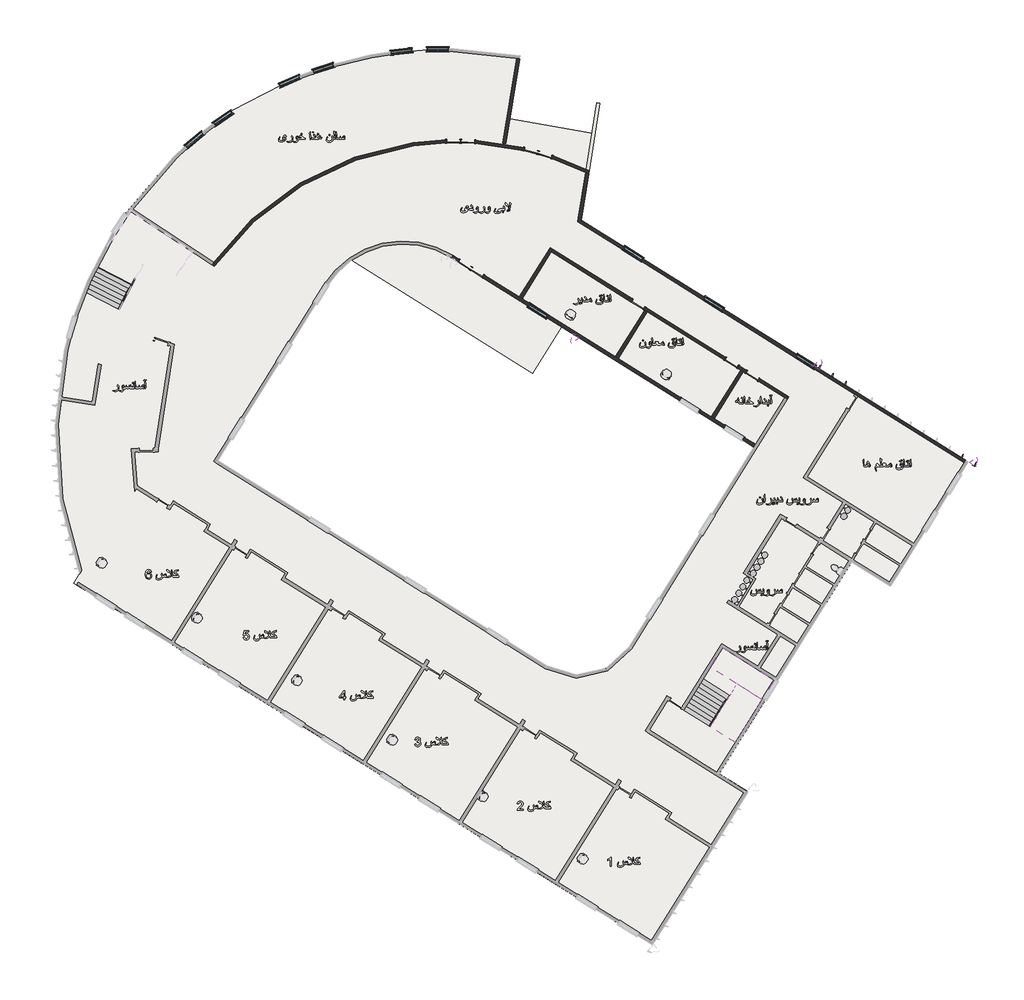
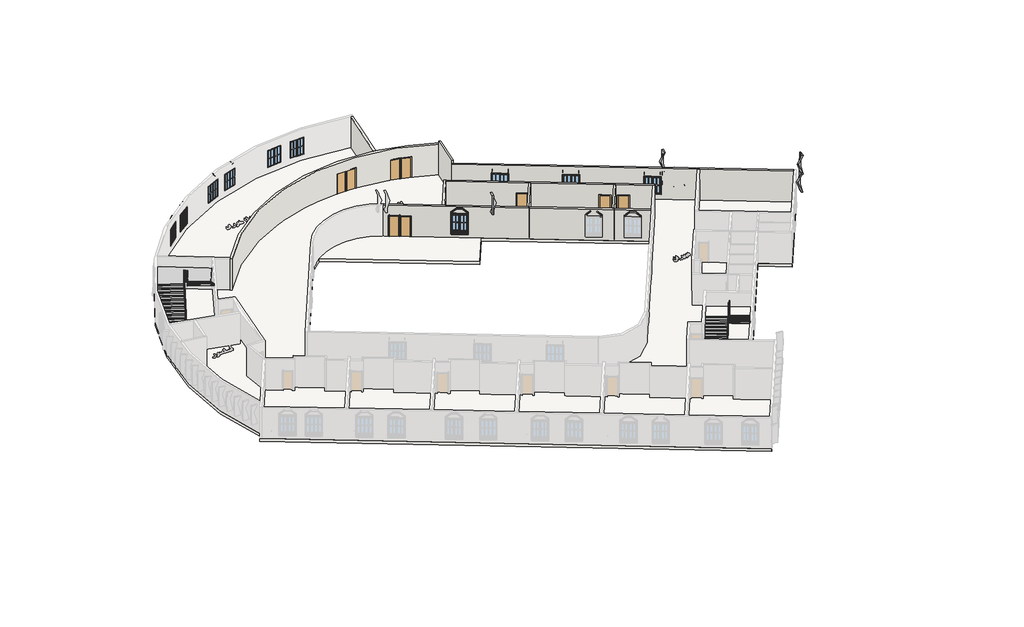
# One storey, part 4 of 12: 10 walls, 10 windows, 9 doors, 8 plates, 3 stair flights, 2 railings, 2 slabs.
"""IFC4 building model written with IfcOpenShell, lengths in millimetres."""

from ifc_helpers import new_model, si_unit, frame, origin, origin_with_axes, place, context, project, spatial, polyline, circle_curve, outline, extrude, faceted_brep, transform, mapped, element, save
from ifc_brep_helpers import plane_surface, cylinder_surface, revolved_surface, advanced_brep
from components import m_single_flush_0915_x_2134mm_6a9e8738, m_single_flush_0915_x_2134mm_727434cd, plate_91021fb5, railing_900mm_pipe_27f02cc4, railing_900mm_pipe_58324353, railing_900mm_pipe_8cd6b57c, railing_900mm_pipe_73249b27, non_monolithic_landing_a9921148, stair_flight_50mm_tread_13mm_riser_e71ca955, stair_flight_50mm_tread_13mm_riser_c05f2f23, stair_flight_50mm_tread_13mm_riser_d2d38518, m_window_casement_double_1400_x_1800mm_877d247a, m_window_casement_double_1400_x_1800mm_eb8f2d9a

model = new_model("IFC4")

# Units and contexts
model_context = context("Model", 3, world=origin())
ifc_project = project(units=[si_unit("LENGTHUNIT", "METRE", prefix="MILLI")], contexts=[model_context])

# Site, building, storey
site = spatial("IfcSite", under=ifc_project)
building = spatial("IfcBuilding", under=site)
storey = spatial("IfcBuildingStorey", under=building, Name="\u200fهمکف", Elevation=0.0)

# Doors
placement = place(None, origin())
m_single_flush_0915_x_2134mm_shape = m_single_flush_0915_x_2134mm_6a9e8738(model_context)
element("IfcDoor", 1, ObjectType="M_Single-Flush : 0915 x 2134mm", at=placement, inside=storey, context=model_context, shape_type="MappedRepresentation", body=[
    mapped(m_single_flush_0915_x_2134mm_shape, transform((29874.1034763, -23130.445272, 0.0), x_axis=(-0.8480480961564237, 0.5299192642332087, 0.0), y_axis=(-0.5299192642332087, -0.8480480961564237, 0.0), z_axis=(0.0, 0.0, 1.0))),
])
element("IfcDoor", 2, ObjectType="M_Single-Flush : 0915 x 2134mm", at=placement, inside=storey, context=model_context, shape_type="MappedRepresentation", body=[
    mapped(m_single_flush_0915_x_2134mm_shape, transform((48678.0915439, -30399.6031763, 0.0), x_axis=(-0.8480480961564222, 0.5299192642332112, 0.0), y_axis=(-0.5299192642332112, -0.8480480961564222, 0.0), z_axis=(0.0, 0.0, 1.0))),
])
element("IfcDoor", 3, ObjectType="M_Single-Flush : 0915 x 2134mm", at=placement, inside=storey, context=model_context, shape_type="MappedRepresentation", body=[
    mapped(m_single_flush_0915_x_2134mm_shape, transform((29130.4178059, -15060.6925463, 0.0), x_axis=(-0.9999690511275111, -0.007867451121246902, 0.0), y_axis=(0.007867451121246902, -0.9999690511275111, 0.0), z_axis=(0.0, 0.0, 1.0))),
])
element("IfcDoor", 4, ObjectType="M_Single-Flush : 0915 x 2134mm", at=placement, inside=storey, context=model_context, shape_type="MappedRepresentation", body=[
    mapped(m_single_flush_0915_x_2134mm_shape, transform((34206.7518759, -15688.9611698, 0.0), x_axis=(-0.9678789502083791, 0.25141666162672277, 0.0), y_axis=(-0.25141666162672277, -0.9678789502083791, 0.0), z_axis=(0.0, 0.0, 1.0))),
])
m_single_flush_0915_x_2134mm_2_shape = m_single_flush_0915_x_2134mm_727434cd(model_context)
element("IfcDoor", 5, ObjectType="M_Single-Flush : 0915 x 2134mm", at=placement, inside=storey, context=model_context, shape_type="MappedRepresentation", body=[
    mapped(m_single_flush_0915_x_2134mm_2_shape, transform((30650.0674843, -23615.3213988, 0.0), x_axis=(0.8480480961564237, -0.5299192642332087, 0.0), y_axis=(0.5299192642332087, 0.8480480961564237, 0.0), z_axis=(0.0, 0.0, 1.0))),
])
element("IfcDoor", 6, ObjectType="M_Single-Flush : 0915 x 2134mm", at=placement, inside=storey, context=model_context, shape_type="MappedRepresentation", body=[
    mapped(m_single_flush_0915_x_2134mm_2_shape, transform((41202.5475762, -25728.3648621, 0.0), x_axis=(0.8480480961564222, -0.5299192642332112, 0.0), y_axis=(0.5299192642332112, 0.8480480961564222, 0.0), z_axis=(0.0, 0.0, 1.0))),
])
element("IfcDoor", 7, ObjectType="M_Single-Flush : 0915 x 2134mm", at=placement, inside=storey, context=model_context, shape_type="MappedRepresentation", body=[
    mapped(m_single_flush_0915_x_2134mm_2_shape, transform((47308.4938686, -29543.7835646, 0.0), x_axis=(0.8480480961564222, -0.5299192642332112, 0.0), y_axis=(0.5299192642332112, 0.8480480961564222, 0.0), z_axis=(0.0, 0.0, 1.0))),
])
element("IfcDoor", 8, ObjectType="M_Single-Flush : 0915 x 2134mm", at=placement, inside=storey, context=model_context, shape_type="MappedRepresentation", body=[
    mapped(m_single_flush_0915_x_2134mm_2_shape, transform((30049.19591, -15075.0282196, 0.0), x_axis=(0.9992368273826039, -0.039061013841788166, 0.0), y_axis=(0.039061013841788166, 0.9992368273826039, 0.0), z_axis=(0.0, 0.0, 1.0))),
])
element("IfcDoor", 9, ObjectType="M_Single-Flush : 0915 x 2134mm", at=placement, inside=storey, context=model_context, shape_type="MappedRepresentation", body=[
    mapped(m_single_flush_0915_x_2134mm_2_shape, transform((35098.0416826, -15943.1488689, 0.0), x_axis=(0.954895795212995, -0.29694110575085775, 0.0), y_axis=(0.29694110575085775, 0.954895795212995, 0.0), z_axis=(0.0, 0.0, 1.0))),
])

# Plates
plate_shape = plate_91021fb5(model_context)
element("IfcPlate", 10, ObjectType="مدل پارامتریک کصینوس دار : مدل پارامتریک کصینوس دار", at=placement, inside=storey, context=model_context, shape_type="MappedRepresentation", body=[
    mapped(plate_shape, transform((35106.128484, -27107.2809712, -150.0), x_axis=(0.0, 0.0, 1.0), y_axis=(0.8480480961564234, -0.529919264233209, 0.0), z_axis=(0.529919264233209, 0.8480480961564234, 0.0))),
])
element("IfcPlate", 11, ObjectType="مدل پارامتریک کصینوس دار : مدل پارامتریک کصینوس دار", at=placement, inside=storey, context=model_context, shape_type="MappedRepresentation", body=[
    mapped(plate_shape, transform((64190.656796, -36319.5588812, -2050.0), x_axis=(0.0, 0.0, 1.0), y_axis=(-0.8480480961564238, 0.5299192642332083, 0.0), z_axis=(-0.5299192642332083, -0.8480480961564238, 0.0))),
])
element("IfcPlate", 12, ObjectType="مدل پارامتریک کصینوس دار : مدل پارامتریک کصینوس دار", at=placement, inside=storey, context=model_context, shape_type="MappedRepresentation", body=[
    mapped(plate_shape, transform((65038.7048922, -36849.4781454, -2050.0), x_axis=(0.0, 0.0, 1.0), y_axis=(-0.848048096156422, 0.5299192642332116, 0.0), z_axis=(-0.5299192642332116, -0.848048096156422, 0.0))),
])
element("IfcPlate", 13, ObjectType="مدل پارامتریک کصینوس دار : مدل پارامتریک کصینوس دار", at=placement, inside=storey, context=model_context, shape_type="MappedRepresentation", body=[
    mapped(plate_shape, transform((56558.2239306, -31550.2855031, -2050.0), x_axis=(0.0, 0.0, 1.0), y_axis=(-0.8480480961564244, 0.5299192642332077, 0.0), z_axis=(-0.5299192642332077, -0.8480480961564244, 0.0))),
])
element("IfcPlate", 14, ObjectType="مدل پارامتریک کصینوس دار : مدل پارامتریک کصینوس دار", at=placement, inside=storey, context=model_context, shape_type="MappedRepresentation", body=[
    mapped(plate_shape, transform((55710.1758345, -31020.3662388, -2050.0), x_axis=(0.0, 0.0, 1.0), y_axis=(-0.848048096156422, 0.5299192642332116, 0.0), z_axis=(-0.5299192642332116, -0.848048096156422, 0.0))),
])
element("IfcPlate", 15, ObjectType="مدل پارامتریک کصینوس دار : مدل پارامتریک کصینوس دار", at=placement, inside=storey, context=model_context, shape_type="MappedRepresentation", body=[
    mapped(plate_shape, transform((54862.1277383, -30490.4469746, -2050.0), x_axis=(0.0, 0.0, 1.0), y_axis=(-0.8480480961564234, 0.529919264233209, 0.0), z_axis=(-0.529919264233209, -0.8480480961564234, 0.0))),
])
element("IfcPlate", 16, ObjectType="مدل پارامتریک کصینوس دار : مدل پارامتریک کصینوس دار", at=placement, inside=storey, context=model_context, shape_type="MappedRepresentation", body=[
    mapped(plate_shape, transform((65081.107297, -36875.9741086, -150.0), x_axis=(0.0, 0.0, 1.0), y_axis=(-0.8480480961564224, 0.5299192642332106, 0.0), z_axis=(-0.5299192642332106, -0.8480480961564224, 0.0))),
])
element("IfcPlate", 17, ObjectType="مدل پارامتریک کصینوس دار : مدل پارامتریک کصینوس دار", at=placement, inside=storey, context=model_context, shape_type="MappedRepresentation", body=[
    mapped(plate_shape, transform((54904.5301431, -30516.9429378, -150.0), x_axis=(0.0, 0.0, 1.0), y_axis=(-0.8480480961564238, 0.5299192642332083, 0.0), z_axis=(-0.5299192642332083, -0.8480480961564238, 0.0))),
])

# Railings
railing_900mm_pipe_shape = railing_900mm_pipe_27f02cc4(model_context)
railing_900mm_pipe_2_shape = railing_900mm_pipe_58324353(model_context)
railing_900mm_pipe_3_shape = railing_900mm_pipe_8cd6b57c(model_context)
element("IfcRailing", 18, ObjectType="900mm Pipe", at=placement, inside=storey, context=model_context, shape_type="MappedRepresentation", body=[
    mapped(railing_900mm_pipe_shape, transform((0.0, 0.0, 0.0), x_axis=(1.0, 0.0, 0.0), y_axis=(0.0, 1.0, 0.0), z_axis=(0.0, 0.0, 1.0))),
    mapped(railing_900mm_pipe_2_shape, transform((0.0, 0.0, 0.0), x_axis=(1.0, 0.0, 0.0), y_axis=(0.0, 1.0, 0.0), z_axis=(0.0, 0.0, 1.0))),
    mapped(railing_900mm_pipe_3_shape, transform((0.0, 0.0, 0.0), x_axis=(1.0, 0.0, 0.0), y_axis=(0.0, 1.0, 0.0), z_axis=(0.0, 0.0, 1.0))),
])
railing_900mm_pipe_4_shape = railing_900mm_pipe_73249b27(model_context)
element("IfcRailing", 19, ObjectType="900mm Pipe", at=placement, inside=storey, context=model_context, shape_type="MappedRepresentation", body=[
    mapped(railing_900mm_pipe_4_shape, transform((0.0, 0.0, 0.0), x_axis=(1.0, 0.0, 0.0), y_axis=(0.0, 1.0, 0.0), z_axis=(0.0, 0.0, 1.0))),
])

# Slabs
element("IfcSlab", 20, ObjectType="Generic 300mm", at=placement, inside=storey, context=model_context, shape_type="AdvancedBrep", body=[
    advanced_brep(
    [(4699.4334687, -43335.0909491, -300.0), (33492.5116112, -9469.0032283, -300.0), (32804.3553925, -13585.0790629, -300.0), (38372.0397585, -14570.311145, -300.0), (37474.4778337, -20215.0266492, -300.0), (62780.8322341, -36028.1919225, -300.0), (57693.6072975, -44169.4536456, -300.0), (55149.463009, -42579.6958529, -300.0), (46503.9173044, -56415.4611664, -300.0), (48383.4012778, -57589.8930988, -300.0), (42130.7967878, -67596.1519607, -300.0), (4307.8516992, -43961.7527759, -300.0), (34308.7475235, -30264.4785162, -300.0), (22452.9728268, -22856.1682651, -300.0), (20838.3160275, -24559.3290451, -300.0), (13729.9790171, -35935.046207, -300.0), (35225.3204534, -49366.8262793, -300.0), (40599.3931589, -48126.1238348, -300.0), (48767.5686978, -35054.3104807, -300.0), (36216.4568747, -27211.50537, -300.0), (4699.4334687, -43335.0909491, 0.0), (4307.8516992, -43961.7527759, 0.0), (42130.7967878, -67596.1519607, 0.0), (48383.4012778, -57589.8930988, 0.0), (46503.9173044, -56415.4611664, 0.0), (55149.463009, -42579.6958529, 0.0), (57693.6072975, -44169.4536456, 0.0), (62780.8322341, -36028.1919225, 0.0), (37474.4778337, -20215.0266492, 0.0), (38372.0397585, -14570.311145, 0.0), (32804.3553925, -13585.0790629, 0.0), (33492.5116112, -9469.0032283, 0.0), (34308.7475235, -30264.4785162, 0.0), (36216.4568747, -27211.50537, 0.0), (48767.5686978, -35054.3104807, 0.0), (40599.3931589, -48126.1238348, 0.0), (35225.3204534, -49366.8262793, 0.0), (13729.9790171, -35935.046207, 0.0), (20838.3160275, -24559.3290451, 0.0), (22452.9728268, -22856.1682651, 0.0), (4699.4334687, -43335.0909491, -298.6943652), (33492.5116112, -9469.0032283, -298.6943652), (37474.4778337, -20215.0266492, -298.6943652), (62780.8322341, -36028.1919225, -298.6943652), (57693.6072975, -44169.4536456, -298.6943652), (55149.463009, -42579.6958529, -298.6943652), (46503.9173044, -56415.4611664, -298.6943652), (48383.4012778, -57589.8930988, -298.6943652), (42130.7967878, -67596.1519607, -298.6943652), (4307.8516992, -43961.7527759, -298.6943652)],
    [
        (0, 1, circle_curve(frame((28463.2186017, -34366.1157481, -300.0), z_axis=(0.0, 0.0, -1.0), x_axis=(1.0, 0.0, 0.0)), 25400.0)),
        (1, 2),
        (2, 3),
        (3, 4),
        (4, 5),
        (5, 6),
        (6, 7),
        (7, 8),
        (8, 9),
        (9, 10),
        (10, 11),
        (11, 0),
        (12, 13),
        (13, 14, circle_curve(frame((25841.7997949, -27685.8527041, -300.0), z_axis=(0.0, 0.0, 1.0), x_axis=(1.0, 0.0, 0.0)), 5900.0)),
        (14, 15),
        (15, 16),
        (16, 17, circle_curve(frame((37292.0055839, -46059.4387043, -300.0), z_axis=(0.0, 0.0, 1.0), x_axis=(1.0, 0.0, 0.0)), 3900.0)),
        (17, 18),
        (18, 19),
        (19, 12),
        (20, 21),
        (21, 22),
        (22, 23),
        (23, 24),
        (24, 25),
        (25, 26),
        (26, 27),
        (27, 28),
        (28, 29),
        (29, 30),
        (30, 31),
        (31, 20, circle_curve(frame((28463.2186017, -34366.1157481, 0.0), z_axis=(0.0, 0.0, 1.0), x_axis=(1.0, 0.0, 0.0)), 25400.0)),
        (32, 33),
        (33, 34),
        (34, 35),
        (35, 36, circle_curve(frame((37292.0055839, -46059.4387043, 0.0), z_axis=(0.0, 0.0, -1.0), x_axis=(1.0, 0.0, 0.0)), 3900.0)),
        (36, 37),
        (37, 38),
        (38, 39, circle_curve(frame((25841.7997949, -27685.8527041, 0.0), z_axis=(0.0, 0.0, -1.0), x_axis=(1.0, 0.0, 0.0)), 5900.0)),
        (39, 32),
        (0, 40),
        (40, 20),
        (31, 41),
        (41, 1),
        (30, 2),
        (29, 3),
        (28, 42),
        (42, 4),
        (27, 43),
        (43, 5),
        (26, 44),
        (44, 6),
        (25, 45),
        (45, 7),
        (24, 46),
        (46, 8),
        (23, 47),
        (47, 9),
        (22, 48),
        (48, 10),
        (21, 49),
        (49, 11),
        (12, 32),
        (39, 13),
        (38, 14),
        (37, 15),
        (36, 16),
        (35, 17),
        (34, 18),
        (33, 19),
    ],
    [
        plane_surface(frame((53863.2186017, -34366.1157481, -300.0), z_axis=(0.0, 0.0, -1.0), x_axis=(0.0, -1.0, 0.0))),
        plane_surface(frame((53863.2186017, -34366.1157481, 0.0), z_axis=(0.0, 0.0, 1.0), x_axis=(0.0, 1.0, 0.0))),
        cylinder_surface(frame((28463.2186017, -34366.1157481, 0.0), z_axis=(0.0, 0.0, -1.0), x_axis=(1.0, 0.0, 0.0)), 25400.0),
        plane_surface(frame((33492.5116112, -9469.0032283, -300.0), z_axis=(0.9863105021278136, -0.16489873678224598, 0.0), x_axis=(0.0, 0.0, 1.0))),
        plane_surface(frame((32804.3553925, -13585.0790629, -300.0), z_axis=(0.17424833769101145, 0.9847017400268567, 0.0), x_axis=(0.0, 0.0, 1.0))),
        plane_surface(frame((38372.0397585, -14570.311145, -300.0), z_axis=(0.98759281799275, -0.15703638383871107, 0.0), x_axis=(0.0, 0.0, 1.0))),
        plane_surface(frame((37474.4778337, -20215.0266492, -300.0), z_axis=(0.529919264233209, 0.8480480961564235, 0.0), x_axis=(0.0, 0.0, 1.0))),
        plane_surface(frame((62780.8322341, -36028.1919225, -300.0), z_axis=(0.8480480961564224, -0.5299192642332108, 0.0), x_axis=(0.0, 0.0, 1.0))),
        plane_surface(frame((57693.6072975, -44169.4536456, -300.0), z_axis=(-0.5299192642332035, -0.848048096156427, 0.0), x_axis=(0.0, 0.0, 1.0))),
        plane_surface(frame((55149.463009, -42579.6958529, -300.0), z_axis=(0.8480480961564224, -0.5299192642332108, 0.0), x_axis=(0.0, 0.0, 1.0))),
        plane_surface(frame((46503.9173044, -56415.4611664, -300.0), z_axis=(0.5299192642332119, 0.8480480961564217, 0.0), x_axis=(0.0, 0.0, 1.0))),
        plane_surface(frame((48383.4012778, -57589.8930988, -300.0), z_axis=(0.8480480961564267, -0.5299192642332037, 0.0), x_axis=(0.0, 0.0, 1.0))),
        plane_surface(frame((42130.7967878, -67596.1519607, -300.0), z_axis=(-0.5299192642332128, -0.8480480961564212, 0.0), x_axis=(0.0, 0.0, 1.0))),
        plane_surface(frame((4307.8516992, -43961.7527759, -300.0), z_axis=(-0.8480480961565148, 0.5299192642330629, 0.0), x_axis=(0.0, 0.0, 1.0))),
        plane_surface(frame((34308.7475235, -30264.4785162, -300.0), z_axis=(-0.52991926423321, -0.848048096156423, 0.0), x_axis=(0.0, 0.0, 1.0))),
        revolved_surface(polyline([(31741.7997949, -27685.8527041, 0.0), (31741.7997949, -27685.8527041, -300.0)]), (25841.7997949, -27685.8527041, 0.0), (0.0, 0.0, 1.0)),
        plane_surface(frame((20838.3160275, -24559.3290451, -300.0), z_axis=(0.8480480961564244, -0.5299192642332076, 0.0), x_axis=(0.0, 0.0, 1.0))),
        plane_surface(frame((13729.9790171, -35935.046207, -300.0), z_axis=(0.5299192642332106, 0.8480480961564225, 0.0), x_axis=(0.0, 0.0, 1.0))),
        revolved_surface(polyline([(41192.0055839, -46059.4387043, 0.0), (41192.0055839, -46059.4387043, -300.0)]), (37292.0055839, -46059.4387043, 0.0), (0.0, 0.0, 1.0)),
        plane_surface(frame((40599.3931589, -48126.1238348, -300.0), z_axis=(-0.8480480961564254, 0.5299192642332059, 0.0), x_axis=(0.0, 0.0, 1.0))),
        plane_surface(frame((48767.5686978, -35054.3104807, -300.0), z_axis=(-0.5299192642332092, -0.8480480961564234, 0.0), x_axis=(0.0, 0.0, 1.0))),
        plane_surface(frame((36216.4568747, -27211.50537, -300.0), z_axis=(0.8480480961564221, -0.5299192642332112, 0.0), x_axis=(0.0, 0.0, 1.0))),
    ],
    [
        (0, [[1, 2, 3, 4, 5, 6, 7, 8, 9, 10, 11, 12], [13, 14, 15, 16, 17, 18, 19, 20]]),
        (1, [[21, 22, 23, 24, 25, 26, 27, 28, 29, 30, 31, 32], [33, 34, 35, 36, 37, 38, 39, 40]]),
        (2, [[-1, 41, 42, -32, 43, 44]]),
        (3, [[-2, -44, -43, -31, 45]]),
        (4, [[-3, -45, -30, 46]]),
        (5, [[-4, -46, -29, 47, 48]]),
        (6, [[-5, -48, -47, -28, 49, 50]]),
        (7, [[-6, -50, -49, -27, 51, 52]]),
        (8, [[-7, -52, -51, -26, 53, 54]]),
        (9, [[-8, -54, -53, -25, 55, 56]]),
        (10, [[-9, -56, -55, -24, 57, 58]]),
        (11, [[-10, -58, -57, -23, 59, 60]]),
        (12, [[-11, -60, -59, -22, 61, 62]]),
        (13, [[-12, -62, -61, -21, -42, -41]]),
        (14, [[-13, 63, -40, 64]]),
        (15, [[-14, -64, -39, 65]]),
        (16, [[-15, -65, -38, 66]]),
        (17, [[-16, -66, -37, 67]]),
        (18, [[-17, -67, -36, 68]]),
        (19, [[-18, -68, -35, 69]]),
        (20, [[-19, -69, -34, 70]]),
        (21, [[-20, -70, -33, -63]]),
    ],
),
])
non_monolithic_landing_shape = non_monolithic_landing_a9921148(model_context)
element("IfcSlab", 21, ObjectType="Non-Monolithic Landing", at=placement, inside=storey, context=model_context, shape_type="MappedRepresentation", body=[
    mapped(non_monolithic_landing_shape, transform((0.0, 0.0, 0.0), x_axis=(1.0, 0.0, 0.0), y_axis=(0.0, 1.0, 0.0), z_axis=(0.0, 0.0, 1.0))),
])

# Stair flights
stair_flight_50mm_tread_13mm_riser_shape = stair_flight_50mm_tread_13mm_riser_e71ca955(model_context)
element("IfcStairFlight", 22, ObjectType="50mm Tread 13mm Riser", at=placement, inside=storey, context=model_context, shape_type="MappedRepresentation", body=[
    mapped(stair_flight_50mm_tread_13mm_riser_shape, transform((0.0, 0.0, 0.0), x_axis=(1.0, 0.0, 0.0), y_axis=(0.0, 1.0, 0.0), z_axis=(0.0, 0.0, 1.0))),
])
stair_flight_50mm_tread_13mm_riser_2_shape = stair_flight_50mm_tread_13mm_riser_c05f2f23(model_context)
element("IfcStairFlight", 23, ObjectType="50mm Tread 13mm Riser", at=placement, inside=storey, context=model_context, shape_type="MappedRepresentation", body=[
    mapped(stair_flight_50mm_tread_13mm_riser_2_shape, transform((0.0, 0.0, 0.0), x_axis=(1.0, 0.0, 0.0), y_axis=(0.0, 1.0, 0.0), z_axis=(0.0, 0.0, 1.0))),
])
stair_flight_50mm_tread_13mm_riser_3_shape = stair_flight_50mm_tread_13mm_riser_d2d38518(model_context)
element("IfcStairFlight", 24, ObjectType="50mm Tread 13mm Riser", at=placement, inside=storey, context=model_context, shape_type="MappedRepresentation", body=[
    mapped(stair_flight_50mm_tread_13mm_riser_3_shape, transform((0.0, 0.0, 0.0), x_axis=(1.0, 0.0, 0.0), y_axis=(0.0, 1.0, 0.0), z_axis=(0.0, 0.0, 1.0))),
])

# Walls
element("IfcWall", 25, ObjectType="Generic - 200mm", at=placement, inside=storey, context=model_context, shape_type="AdvancedBrep", body=[
    advanced_brep(
    [(29587.1169017, -14957.0962823, 0.0), (29595.9511629, -14957.2341231, 0.0), (29588.5979456, -15145.3399811, 0.0), (30510.2528599, -14992.9749507, 0.0), (32332.8782155, -15192.2595548, 0.0), (32530.3104035, -15224.238089, 0.0), (33789.0889224, -15477.1501521, 0.0), (33738.7918629, -15670.7787876, 0.0), (30502.4385245, -15192.8768738, 0.0), (34631.466533, -15902.8400292, 0.0), (34624.4011023, -15900.825033, 0.0), (34674.6981618, -15707.1963975, 0.0), (34690.8709669, -15711.8087335, 0.0), (37955.3927954, -17190.5800173, 0.0), (37767.511816, -17098.4645216, 0.0), (35505.1961856, -16174.5411409, 0.0), (35564.6006195, -15983.5098453, 0.0), (37988.2881496, -16983.7030198, 0.0), (13486.8274273, -23234.6151527, 0.0), (13319.2946092, -23124.9971226, 0.0), (13437.2637369, -22963.1558107, 0.0), (28672.1452199, -14964.2950001, 0.0), (28673.7191397, -15164.3434079, 0.0), (35564.6006195, -15983.5098453, 2134.0), (34690.8709669, -15711.8087335, 2134.0), (34674.6981618, -15707.1963975, 2134.0), (33789.0889224, -15477.1501521, 2134.0), (30510.2528599, -14992.9749507, 2134.0), (29595.9511629, -14957.2341231, 2134.0), (29587.1169017, -14957.0962823, 2134.0), (28672.1452199, -14964.2950001, 2134.0), (13319.2946092, -23124.9971226, 3300.0), (13437.2529433, -22963.1701496, 3300.0), (32332.8790246, -15192.2595945, 3300.0), (32530.3086206, -15224.2377798, 3300.0), (32560.1468391, -15229.2500289, 3300.0), (37988.2881496, -16983.7030198, 3300.0), (37988.2881496, -16983.7030198, 150.0), (35505.1961856, -16174.5411409, 2134.0), (37955.3927954, -17190.5800173, 3300.0), (13486.8274273, -23234.6151527, 3300.0), (28673.7191397, -15164.3434079, 2134.0), (30502.4385245, -15192.8768738, 2134.0), (33738.7918629, -15670.7787876, 2134.0), (34624.4011023, -15900.825033, 2134.0), (34631.466533, -15902.8400292, 2134.0), (29588.5979456, -15145.3399811, 2134.0)],
    [
        (0, 1, circle_curve(frame((29284.4488792, -34638.3554793, 0.0), z_axis=(0.0, 0.0, -1.0), x_axis=(1.0, 0.0, 0.0)), 19683.5863478)),
        (1, 2),
        (2, 0),
        (3, 4, circle_curve(frame((29284.4488792, -34638.3554793, 0.0), z_axis=(0.0, 0.0, -1.0), x_axis=(1.0, 0.0, 0.0)), 19683.5863478)),
        (4, 5, circle_curve(frame((29284.4488792, -34638.3554793, 0.0), z_axis=(0.0, 0.0, -1.0), x_axis=(1.0, 0.0, 0.0)), 19683.5862618)),
        (5, 6, circle_curve(frame((29284.4488792, -34638.3554793, 0.0), z_axis=(0.0, 0.0, -1.0), x_axis=(1.0, 0.0, 0.0)), 19683.5863368)),
        (6, 7),
        (7, 8, circle_curve(frame((29284.4488792, -34638.3554793, 0.0), z_axis=(0.0, 0.0, 1.0), x_axis=(1.0, 0.0, 0.0)), 19483.5863478)),
        (8, 3),
        (9, 10, circle_curve(frame((29284.4488792, -34638.3554793, 0.0), z_axis=(0.0, 0.0, 1.0), x_axis=(1.0, 0.0, 0.0)), 19483.5863478)),
        (10, 11),
        (11, 12, circle_curve(frame((29284.4488792, -34638.3554793, 0.0), z_axis=(0.0, 0.0, -1.0), x_axis=(1.0, 0.0, 0.0)), 19683.5863478)),
        (12, 9),
        (13, 14, circle_curve(frame((29284.4488792, -34638.3554793, 0.0), z_axis=(0.0, 0.0, 1.0), x_axis=(1.0, 0.0, 0.0)), 19483.5863478)),
        (14, 15, circle_curve(frame((29284.4488792, -34638.3554793, 0.0), z_axis=(0.0, 0.0, 1.0), x_axis=(1.0, 0.0, 0.0)), 19483.5862099)),
        (15, 16),
        (16, 17, circle_curve(frame((29284.4488792, -34638.3554793, 0.0), z_axis=(0.0, 0.0, -1.0), x_axis=(1.0, 0.0, 0.0)), 19683.5863478)),
        (17, 13),
        (18, 19),
        (19, 20, circle_curve(frame((29284.4488792, -34638.3554793, 0.0), z_axis=(0.0, 0.0, -1.0), x_axis=(1.0, 0.0, 0.0)), 19683.5863478)),
        (20, 21, circle_curve(frame((29284.4488792, -34638.3554793, 0.0), z_axis=(0.0, 0.0, -1.0), x_axis=(1.0, 0.0, 0.0)), 19683.5861629)),
        (21, 22),
        (22, 18, circle_curve(frame((29284.4488792, -34638.3554793, 0.0), z_axis=(0.0, 0.0, 1.0), x_axis=(1.0, 0.0, 0.0)), 19483.5863478)),
        (16, 23),
        (23, 24, circle_curve(frame((29284.4488792, -34638.3554793, 2134.0), z_axis=(0.0, 0.0, 1.0), x_axis=(1.0, 0.0, 0.0)), 19683.5863478)),
        (24, 12),
        (11, 25),
        (25, 26, circle_curve(frame((29284.4488792, -34638.3554793, 2134.0), z_axis=(0.0, 0.0, 1.0), x_axis=(1.0, 0.0, 0.0)), 19683.5863478)),
        (26, 6),
        (3, 27),
        (27, 28, circle_curve(frame((29284.4488792, -34638.3554793, 2134.0), z_axis=(0.0, 0.0, 1.0), x_axis=(1.0, 0.0, 0.0)), 19683.5863478)),
        (28, 1),
        (0, 29),
        (29, 30, circle_curve(frame((29284.4488792, -34638.3554793, 2134.0), z_axis=(0.0, 0.0, 1.0), x_axis=(1.0, 0.0, 0.0)), 19683.5863478)),
        (30, 21),
        (19, 31),
        (31, 32, circle_curve(frame((29284.4488792, -34638.3554793, 3300.0), z_axis=(0.0, 0.0, -1.0), x_axis=(1.0, 0.0, 0.0)), 19683.5863478)),
        (32, 33, circle_curve(frame((29284.4488792, -34638.3554793, 3300.0), z_axis=(0.0, 0.0, -1.0), x_axis=(1.0, 0.0, 0.0)), 19683.5863478)),
        (33, 34, circle_curve(frame((29284.4488792, -34638.3554793, 3300.0), z_axis=(0.0, 0.0, -1.0), x_axis=(1.0, 0.0, 0.0)), 19683.5863478)),
        (34, 35, circle_curve(frame((29284.4488792, -34638.3554793, 3300.0), z_axis=(0.0, 0.0, -1.0), x_axis=(1.0, 0.0, 0.0)), 19683.5863478)),
        (35, 36, circle_curve(frame((29284.4488792, -34638.3554793, 3300.0), z_axis=(0.0, 0.0, -1.0), x_axis=(1.0, 0.0, 0.0)), 19683.5863478)),
        (36, 37),
        (37, 17),
        (38, 15),
        (13, 39),
        (39, 40, circle_curve(frame((29284.4488792, -34638.3554793, 3300.0), z_axis=(0.0, 0.0, 1.0), x_axis=(1.0, 0.0, 0.0)), 19483.5863478)),
        (40, 18),
        (22, 41),
        (41, 42, circle_curve(frame((29284.4488792, -34638.3554793, 2134.0), z_axis=(0.0, 0.0, -1.0), x_axis=(1.0, 0.0, 0.0)), 19483.5863478)),
        (42, 8),
        (7, 43),
        (43, 44, circle_curve(frame((29284.4488792, -34638.3554793, 2134.0), z_axis=(0.0, 0.0, -1.0), x_axis=(1.0, 0.0, 0.0)), 19483.5863478)),
        (44, 10),
        (9, 45),
        (45, 38, circle_curve(frame((29284.4488792, -34638.3554793, 2134.0), z_axis=(0.0, 0.0, -1.0), x_axis=(1.0, 0.0, 0.0)), 19483.5863478)),
        (42, 27),
        (41, 30),
        (29, 46),
        (46, 28),
        (46, 2),
        (26, 43),
        (25, 44),
        (38, 23),
        (45, 24),
        (36, 39),
        (40, 31),
    ],
    [
        plane_surface(frame((48968.0352269, -34638.3554793, 0.0), z_axis=(0.0, 0.0, -1.0), x_axis=(0.0, -1.0, 0.0))),
        cylinder_surface(frame((29284.4488792, -34638.3554793, 0.0), z_axis=(0.0, 0.0, 1.0), x_axis=(1.0, 0.0, 0.0)), 19683.5863478),
        revolved_surface(polyline([(48768.035227, -34638.3554793, 0.0), (48768.035227, -34638.3554793, 3300.0)]), (29284.4488792, -34638.3554793, 0.0), (0.0, 0.0, -1.0)),
        plane_surface(frame((30510.2528599, -14992.9749507, 0.0), z_axis=(-0.9992368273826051, 0.03906101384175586, 0.0), x_axis=(-0.03906101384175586, -0.9992368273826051, 0.0))),
        plane_surface(frame((30510.2528599, -14992.9749507, 2134.0), z_axis=(0.0, 0.0, -1.0), x_axis=(-0.039061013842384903, -0.9992368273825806, 0.0))),
        plane_surface(frame((29595.9511629, -14957.2341231, 2134.0), z_axis=(0.9992368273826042, -0.039061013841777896, 0.0), x_axis=(-0.039061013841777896, -0.9992368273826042, 0.0))),
        plane_surface(frame((28660.1552244, -13440.3421662, 0.0), z_axis=(0.9999690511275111, 0.007867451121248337, 0.0), x_axis=(0.007867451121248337, -0.9999690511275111, 0.0))),
        plane_surface(frame((29575.1269061, -13433.1434484, 2134.0), z_axis=(-0.9999690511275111, -0.007867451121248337, 0.0), x_axis=(0.007867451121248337, -0.9999690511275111, 0.0))),
        plane_surface(frame((33738.7918629, -15670.7787876, 0.0), z_axis=(0.9678789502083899, -0.2514166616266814, 0.0), x_axis=(0.2514166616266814, 0.9678789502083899, 0.0))),
        plane_surface(frame((33738.7918629, -15670.7787876, 2134.0), z_axis=(0.0, 0.0, -1.0), x_axis=(0.2514166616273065, 0.9678789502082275, 0.0))),
        plane_surface(frame((34624.4011023, -15900.825033, 2134.0), z_axis=(-0.9678789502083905, 0.2514166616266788, 0.0), x_axis=(0.2514166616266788, 0.9678789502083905, 0.0))),
        plane_surface(frame((35564.6006195, -15983.5098453, 0.0), z_axis=(-0.9548957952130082, 0.2969411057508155, 0.0), x_axis=(-0.2969411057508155, -0.9548957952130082, 0.0))),
        plane_surface(frame((35564.6006195, -15983.5098453, 2134.0), z_axis=(0.0, 0.0, -1.0), x_axis=(-0.29694110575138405, -0.9548957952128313, 0.0))),
        plane_surface(frame((34690.8709669, -15711.8087335, 2134.0), z_axis=(0.9548957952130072, -0.29694110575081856, 0.0), x_axis=(-0.29694110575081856, -0.9548957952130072, 0.0))),
        plane_surface(frame((38688.9607331, -12577.2132989, 0.0), z_axis=(0.9875928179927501, -0.15703638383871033, 0.0), x_axis=(0.15703638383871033, 0.9875928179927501, 0.0))),
        plane_surface(frame((8007.1130947, -19649.1953072, 0.0), z_axis=(-0.547519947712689, -0.8367926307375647, 0.0), x_axis=(0.8367926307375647, -0.547519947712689, 0.0))),
        plane_surface(frame((48968.0352269, -34638.3554793, 3300.0), z_axis=(0.0, 0.0, 1.0), x_axis=(0.0, -1.0, 0.0))),
    ],
    [
        (0, [[1, 2, 3]]),
        (0, [[4, 5, 6, 7, 8, 9]]),
        (0, [[10, 11, 12, 13]]),
        (0, [[14, 15, 16, 17, 18]]),
        (0, [[19, 20, 21, 22, 23]]),
        (1, [[-17, 24, 25, 26, -12, 27, 28, 29, -6, -5, -4, 30, 31, 32, -1, 33, 34, 35, -21, -20, 36, 37, 38, 39, 40, 41, 42, 43]]),
        (2, [[44, -15, -14, 45, 46, 47, -23, 48, 49, 50, -8, 51, 52, 53, -10, 54, 55]]),
        (3, [[-30, -9, -50, 56]]),
        (4, [[-31, -56, -49, 57, -34, 58, 59]]),
        (5, [[-32, -59, 60, -2]]),
        (6, [[-57, -48, -22, -35]]),
        (7, [[-58, -33, -3, -60]]),
        (8, [[-51, -7, -29, 61]]),
        (9, [[-52, -61, -28, 62]]),
        (10, [[-53, -62, -27, -11]]),
        (11, [[-24, -16, -44, 63]]),
        (12, [[-25, -63, -55, 64]]),
        (13, [[-26, -64, -54, -13]]),
        (14, [[65, -45, -18, -43, -42]]),
        (15, [[66, -36, -19, -47]]),
        (16, [[-46, -65, -41, -40, -39, -38, -37, -66]]),
    ],
),
])
element("IfcWall", 26, ObjectType="Generic - 200mm", at=placement, inside=storey, context=model_context, shape_type="Brep", body=[
    faceted_brep([(33608.6868199, -25346.1541052, 0.0), (35516.3961711, -22293.1809591, 0.0), (35622.3800239, -22123.5713398, 0.0), (35622.3800239, -22123.5713398, 3300.0), (35516.3961711, -22293.1809591, 3300.0), (33608.6868199, -25346.1541052, 3300.0), (33439.0772006, -25240.1702524, 0.0), (33439.0772006, -25240.1702524, 3300.0), (35452.7704047, -22017.587487, 3300.0), (35452.7704047, -22017.587487, 0.0)], [[[0, 1, 2, 3, 4, 5]], [[6, 7, 8, 9]], [[2, 1, 0, 6, 9]], [[3, 2, 9, 8]], [[0, 5, 7, 6]], [[5, 4, 3, 8, 7]]]),
])
element("IfcWall", 27, ObjectType="Generic - 200mm", at=placement, inside=storey, context=model_context, shape_type="Brep", body=[
    faceted_brep([(37256.1574809, -20314.4406325, 0.0), (55381.6347543, -31640.4958694, 0.0), (55551.2443735, -31746.4797222, 0.0), (62505.238762, -36091.8176889, 0.0), (62505.238762, -36091.8176889, 3300.0), (55551.2443735, -31746.4797222, 3300.0), (55381.6347543, -31640.4958694, 3300.0), (37256.1574809, -20314.4406325, 3300.0), (40201.5738331, -22154.9410396, 600.0), (40201.5738331, -22154.9410396, 2400.0), (41388.8411677, -22896.8280095, 2400.0), (41388.8411677, -22896.8280095, 600.0), (45459.4720293, -25440.4404778, 600.0), (45459.4720293, -25440.4404778, 2400.0), (46646.7393639, -26182.3274478, 2400.0), (46646.7393639, -26182.3274478, 600.0), (51480.613512, -29202.8672539, 600.0), (51480.613512, -29202.8672539, 2400.0), (52667.8808466, -29944.7542238, 2400.0), (52667.8808466, -29944.7542238, 600.0), (62611.2226149, -35922.2080697, 0.0), (37474.4778337, -20215.0266492, 0.0), (37290.268284, -20099.9197472, 0.0), (37290.268284, -20099.9197472, 3300.0), (62611.2226149, -35922.2080697, 3300.0), (40307.557686, -21985.3314203, 2400.0), (40307.557686, -21985.3314203, 600.0), (41494.8250206, -22727.2183903, 600.0), (41494.8250206, -22727.2183903, 2400.0), (45565.4558821, -25270.8308586, 2400.0), (45565.4558821, -25270.8308586, 600.0), (46752.7232167, -26012.7178285, 600.0), (46752.7232167, -26012.7178285, 2400.0), (51586.5973648, -29033.2576346, 2400.0), (51586.5973648, -29033.2576346, 600.0), (52773.8646995, -29775.1446046, 600.0), (52773.8646995, -29775.1446046, 2400.0)], [[[0, 1, 2, 3, 4, 5, 6, 7], [8, 9, 10, 11], [12, 13, 14, 15], [16, 17, 18, 19]], [[20, 21, 22, 23, 24], [25, 26, 27, 28], [29, 30, 31, 32], [33, 34, 35, 36]], [[3, 2, 1, 0, 22, 21, 20]], [[4, 3, 20, 24]], [[0, 7, 23, 22]], [[7, 6, 5, 4, 24, 23]], [[26, 25, 9, 8]], [[27, 26, 8, 11]], [[28, 27, 11, 10]], [[25, 28, 10, 9]], [[30, 29, 13, 12]], [[31, 30, 12, 15]], [[32, 31, 15, 14]], [[29, 32, 14, 13]], [[34, 33, 17, 16]], [[35, 34, 16, 19]], [[36, 35, 19, 18]], [[33, 36, 18, 17]]]),
])
element("IfcWall", 28, ObjectType="Generic - 200mm", at=placement, inside=storey, context=model_context, shape_type="Brep", body=[
    faceted_brep([(47643.4839461, -29871.0264376, 0.0), (47897.898375, -30030.0022169, 0.0), (48067.5079942, -30135.9860697, 0.0), (48237.1176134, -30241.9699226, 0.0), (48237.1176134, -30241.9699226, 2134.0), (49013.0816214, -30726.8460493, 2134.0), (49013.0816214, -30726.8460493, 0.0), (50781.2619019, -31831.7277153, 0.0), (50950.8715211, -31937.7115681, 0.0), (50950.8715211, -31937.7115681, 3300.0), (50781.2619019, -31831.7277153, 3300.0), (48067.5079942, -30135.9860697, 3300.0), (47897.898375, -30030.0022169, 3300.0), (41791.9520827, -26214.5835144, 3300.0), (41622.3424634, -26108.5996616, 3300.0), (35516.3961711, -22293.1809591, 3300.0), (35516.3961711, -22293.1809591, 0.0), (40761.5736458, -25570.7316084, 0.0), (40761.5736458, -25570.7316084, 2134.0), (41537.5376538, -26055.6077351, 2134.0), (41537.5376538, -26055.6077351, 0.0), (41622.3424634, -26108.5996616, 0.0), (41791.9520827, -26214.5835144, 0.0), (46867.5199381, -29386.1503108, 0.0), (46867.5199381, -29386.1503108, 2134.0), (47643.4839461, -29871.0264376, 2134.0), (48343.1014663, -30072.3603033, 2134.0), (48343.1014663, -30072.3603033, 0.0), (47749.467799, -29701.4168184, 0.0), (47749.467799, -29701.4168184, 2134.0), (46973.503791, -29216.5406916, 2134.0), (46973.503791, -29216.5406916, 0.0), (41643.5215067, -25885.9981159, 0.0), (41643.5215067, -25885.9981159, 2134.0), (40867.5574987, -25401.1219891, 2134.0), (40867.5574987, -25401.1219891, 0.0), (35622.3800239, -22123.5713398, 0.0), (35622.3800239, -22123.5713398, 3300.0), (51056.855374, -31768.1019489, 3300.0), (51056.855374, -31768.1019489, 0.0), (49119.0654743, -30557.2364301, 0.0), (49119.0654743, -30557.2364301, 2134.0)], [[[0, 1, 2, 3, 4, 5, 6, 7, 8, 9, 10, 11, 12, 13, 14, 15, 16, 17, 18, 19, 20, 21, 22, 23, 24, 25]], [[26, 27, 28, 29, 30, 31, 32, 33, 34, 35, 36, 37, 38, 39, 40, 41]], [[17, 16, 36, 35]], [[23, 22, 21, 20, 32, 31]], [[40, 39, 8, 7, 6]], [[28, 27, 3, 2, 1, 0]], [[16, 15, 37, 36]], [[9, 8, 39, 38]], [[33, 32, 20, 19]], [[34, 33, 19, 18]], [[35, 34, 18, 17]], [[29, 28, 0, 25]], [[30, 29, 25, 24]], [[31, 30, 24, 23]], [[4, 3, 27, 26]], [[5, 4, 26, 41]], [[6, 5, 41, 40]], [[15, 14, 13, 12, 11, 10, 9, 38, 37]]]),
])
element("IfcWall", 29, ObjectType="Generic - 200mm", at=placement, inside=storey, context=model_context, shape_type="SweptSolid", body=[
    extrude(outline(polyline([(39714.6331122, -29161.5728077), (41622.3424634, -26108.5996616), (41791.9520827, -26214.5835144), (39884.2427314, -29267.5566606), (39714.6331122, -29161.5728077)])), origin_with_axes(), (0.0, 0.0, 1.0), 3300.0),
])
element("IfcWall", 30, ObjectType="Generic - 200mm", at=placement, inside=storey, context=model_context, shape_type="SweptSolid", body=[
    extrude(outline(polyline([(45990.1890237, -33082.975363), (47897.898375, -30030.0022169), (48067.5079942, -30135.9860697), (46159.798643, -33188.9592159), (45990.1890237, -33082.975363)])), origin_with_axes(), (0.0, 0.0, 1.0), 3300.0),
])
element("IfcWall", 31, ObjectType="Generic - 200mm", at=placement, inside=storey, context=model_context, shape_type="Brep", body=[
    faceted_brep([(28968.3234538, -22682.3689368, 3300.0), (28968.3234538, -22682.3689368, 0.0), (29433.1295459, -22972.8120183, 0.0), (29433.1295459, -22972.8120183, 2134.0), (30985.0575619, -23942.5642718, 2134.0), (30985.0575619, -23942.5642718, 0.0), (48767.5686978, -35054.3104807, 0.0), (48767.5686978, -35054.3104807, 3300.0), (46817.0580767, -33835.4961729, 600.0), (46817.0580767, -33835.4961729, 2400.0), (48004.3254113, -34577.3831429, 2400.0), (48004.3254113, -34577.3831429, 600.0), (43933.6945497, -32033.7706745, 600.0), (43933.6945497, -32033.7706745, 2400.0), (45120.9618844, -32775.6576445, 2400.0), (45120.9618844, -32775.6576445, 600.0), (34025.3099866, -25842.3248341, 600.0), (34025.3099866, -25842.3248341, 2400.0), (35212.5773212, -26584.211804, 2400.0), (35212.5773212, -26584.211804, 600.0), (29074.3073067, -22512.7593175, 0.0), (29074.3073067, -22512.7593175, 3300.0), (33439.0772006, -25240.1702524, 3300.0), (33608.6868199, -25346.1541052, 3300.0), (39714.6331122, -29161.5728077, 3300.0), (39884.2427314, -29267.5566606, 3300.0), (45990.1890237, -33082.975363, 3300.0), (46159.798643, -33188.9592159, 3300.0), (48873.5525507, -34884.7008614, 3300.0), (48873.5525507, -34884.7008614, 0.0), (46159.798643, -33188.9592159, 0.0), (45990.1890237, -33082.975363, 0.0), (39884.2427314, -29267.5566606, 0.0), (39714.6331122, -29161.5728077, 0.0), (33608.6868199, -25346.1541052, 0.0), (33439.0772006, -25240.1702524, 0.0), (31091.0414147, -23772.9546526, 0.0), (31091.0414147, -23772.9546526, 2134.0), (29539.1133987, -22803.202399, 2134.0), (29539.1133987, -22803.202399, 0.0), (46923.0419295, -33665.8865537, 2400.0), (46923.0419295, -33665.8865537, 600.0), (48110.3092641, -34407.7735236, 600.0), (48110.3092641, -34407.7735236, 2400.0), (44039.6784026, -31864.1610553, 2400.0), (44039.6784026, -31864.1610553, 600.0), (45226.9457372, -32606.0480252, 600.0), (45226.9457372, -32606.0480252, 2400.0), (34131.2938394, -25672.7152149, 2400.0), (34131.2938394, -25672.7152149, 600.0), (35318.5611741, -26414.6021848, 600.0), (35318.5611741, -26414.6021848, 2400.0)], [[[0, 1, 2, 3, 4, 5, 6, 7], [8, 9, 10, 11], [12, 13, 14, 15], [16, 17, 18, 19]], [[20, 21, 22, 23, 24, 25, 26, 27, 28, 29, 30, 31, 32, 33, 34, 35, 36, 37, 38, 39], [40, 41, 42, 43], [44, 45, 46, 47], [48, 49, 50, 51]], [[29, 6, 5, 36, 35, 34, 33, 32, 31, 30]], [[1, 20, 39, 2]], [[1, 0, 21, 20]], [[7, 6, 29, 28]], [[3, 2, 39, 38]], [[3, 38, 37, 4]], [[4, 37, 36, 5]], [[0, 7, 28, 27, 26, 25, 24, 23, 22, 21]], [[41, 40, 9, 8]], [[42, 41, 8, 11]], [[43, 42, 11, 10]], [[40, 43, 10, 9]], [[45, 44, 13, 12]], [[46, 45, 12, 15]], [[47, 46, 15, 14]], [[44, 47, 14, 13]], [[49, 48, 17, 16]], [[50, 49, 16, 19]], [[51, 50, 19, 18]], [[48, 51, 18, 17]]]),
])
element("IfcWall", 32, ObjectType="Generic - 200mm", at=placement, inside=storey, context=model_context, shape_type="AdvancedBrep", body=[
    advanced_brep(
    [(38491.4421695, -12545.8060221, -300.0), (37800.3144791, -16892.2684573, -300.0), (37800.3144791, -16892.2684573, 150.0), (38491.4421695, -12545.8060221, 150.0), (38688.9607331, -12577.2132989, -300.0), (38688.9607331, -12577.2132989, 150.0), (37988.2881496, -16983.7030198, 150.0), (37988.2881496, -16983.7030198, 0.0), (37988.2881496, -16983.7030198, -300.0)],
    [
        (0, 1),
        (1, 2),
        (2, 3),
        (3, 0),
        (4, 5),
        (5, 6),
        (6, 7),
        (7, 8),
        (8, 4),
        (0, 4),
        (8, 1, circle_curve(frame((29284.4488792, -34638.3554793, -300.0), z_axis=(0.0, 0.0, 1.0), x_axis=(1.0, 0.0, 0.0)), 19683.5863478)),
        (2, 6, circle_curve(frame((29284.4488792, -34638.3554793, 150.0), z_axis=(0.0, 0.0, -1.0), x_axis=(1.0, 0.0, 0.0)), 19683.5863478)),
        (5, 3),
    ],
    [
        plane_surface(frame((38491.4421695, -12545.8060221, -300.0), z_axis=(-0.9875928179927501, 0.15703638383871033, 0.0), x_axis=(-0.15703638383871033, -0.9875928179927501, 0.0))),
        plane_surface(frame((38688.9607331, -12577.2132989, -300.0), z_axis=(0.9875928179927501, -0.15703638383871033, 0.0), x_axis=(0.15703638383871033, 0.9875928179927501, 0.0))),
        plane_surface(frame((38491.4421695, -12545.8060221, -300.0), z_axis=(0.0, 0.0, -1.0), x_axis=(0.9875928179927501, -0.15703638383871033, 0.0))),
        plane_surface(frame((37779.1709092, -17025.2391566, 150.0), z_axis=(0.0, 0.0, 1.0), x_axis=(0.9875928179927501, -0.15703638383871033, 0.0))),
        plane_surface(frame((38491.4421695, -12545.8060221, 150.0), z_axis=(0.15703638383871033, 0.9875928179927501, 0.0), x_axis=(0.9875928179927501, -0.15703638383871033, 0.0))),
        revolved_surface(polyline([(48968.035227, -34638.3554793, 150.0), (48968.035227, -34638.3554793, -300.0)]), (29284.4488792, -34638.3554793, 0.0), (0.0, 0.0, 1.0)),
    ],
    [
        (0, [[1, 2, 3, 4]]),
        (1, [[5, 6, 7, 8, 9]]),
        (2, [[-1, 10, -9, 11]]),
        (3, [[-3, 12, -6, 13]]),
        (4, [[-4, -13, -5, -10]]),
        (5, [[-2, -11, -8, -7, -12]]),
    ],
),
])
element("IfcWall", 33, ObjectType="Generic - 200mm", at=placement, inside=storey, context=model_context, shape_type="AdvancedBrep", body=[
    advanced_brep(
    [(33263.2393764, -9627.4860253, 0.0), (32332.8790777, -15192.2596029, 0.0), (32332.8790777, -15192.2596029, 3300.0), (33263.2393764, -9627.4860253, 3300.0), (33459.5130175, -9666.378055, 0.0), (33459.5130175, -9666.378055, 3300.0), (33156.585361, -11478.2823471, 3300.0), (32530.3086279, -15224.237781, 3300.0), (32530.3086279, -15224.237781, 0.0), (33445.1559838, -9663.4782387, 3300.0)],
    [
        (0, 1),
        (1, 2),
        (2, 3),
        (3, 0),
        (4, 5),
        (5, 6),
        (6, 7),
        (7, 8),
        (8, 4),
        (0, 4, circle_curve(frame((28463.2186017, -34366.1157481, 0.0), z_axis=(0.0, 0.0, -1.0), x_axis=(1.0, 0.0, 0.0)), 25200.0)),
        (8, 1, circle_curve(frame((29284.4488792, -34638.3554793, 0.0), z_axis=(0.0, 0.0, 1.0), x_axis=(1.0, 0.0, 0.0)), 19683.5863478)),
        (3, 9, circle_curve(frame((28463.2186017, -34366.1157481, 3300.0), z_axis=(0.0, 0.0, -1.0), x_axis=(1.0, 0.0, 0.0)), 25200.0)),
        (9, 5, circle_curve(frame((28463.2186017, -34366.1157481, 3300.0), z_axis=(0.0, 0.0, -1.0), x_axis=(1.0, 0.0, 0.0)), 25200.0)),
        (7, 2, circle_curve(frame((29284.4488792, -34638.3554793, 3300.0), z_axis=(0.0, 0.0, 1.0), x_axis=(1.0, 0.0, 0.0)), 19683.5863478)),
        (6, 9),
    ],
    [
        plane_surface(frame((33263.2393446, -9627.4862158, 0.0), z_axis=(-0.9863105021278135, 0.16489873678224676, 0.0), x_axis=(-0.16489873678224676, -0.9863105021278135, 0.0))),
        plane_surface(frame((33460.501445, -9660.4659632, 0.0), z_axis=(0.9863105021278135, -0.16489873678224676, 0.0), x_axis=(0.16489873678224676, 0.9863105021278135, 0.0))),
        plane_surface(frame((33279.275158, -9531.5710407, 0.0), z_axis=(0.0, 0.0, -1.0000000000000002), x_axis=(0.9863105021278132, -0.16489873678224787, 0.0))),
        cylinder_surface(frame((28463.2186017, -34366.1157481, 0.0), z_axis=(0.0, 0.0, -1.0), x_axis=(1.0, 0.0, 0.0)), 25200.0),
        revolved_surface(polyline([(48968.035227, -34638.3554793, 3300.0), (48968.035227, -34638.3554793, 0.0)]), (29284.4488792, -34638.3554793, 0.0), (0.0, 0.0, 1.0)),
        plane_surface(frame((48968.0352269, -34638.3554793, 3300.0), z_axis=(0.0, 0.0, 1.0), x_axis=(0.0, -1.0, 0.0))),
        plane_surface(frame((32316.5146045, -15290.1405936, 3300.0), z_axis=(0.0, 0.0, 1.0000000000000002), x_axis=(0.9863105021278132, -0.16489873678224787, 0.0))),
    ],
    [
        (0, [[1, 2, 3, 4]]),
        (1, [[5, 6, 7, 8, 9]]),
        (2, [[-1, 10, -9, 11]]),
        (3, [[-4, 12, 13, -5, -10]]),
        (4, [[-2, -11, -8, 14]]),
        (5, [[-3, -14, -7, 15, -12]]),
        (6, [[-6, -13, -15]]),
    ],
),
])
element("IfcWall", 34, ObjectType="Generic - 200mm", at=placement, inside=storey, context=model_context, shape_type="AdvancedBrep", body=[
    advanced_brep(
    [(37767.5263093, -17098.471378, 3600.0), (37767.5263093, -17098.471378, 0.0), (37290.268284, -20099.9197472, 0.0), (37290.268284, -20099.9197472, 3300.0), (37290.268284, -20099.9197472, 3600.0), (37955.3927954, -17190.5800173, 0.0), (37955.3927954, -17190.5800173, 3300.0), (37955.3927954, -17190.5800173, 3600.0), (37474.4778337, -20215.0266492, 3600.0), (37474.4778337, -20215.0266492, 0.0)],
    [
        (0, 1),
        (1, 2),
        (2, 3),
        (3, 4),
        (4, 0),
        (5, 6),
        (6, 7),
        (7, 8),
        (8, 9),
        (9, 5),
        (1, 5, circle_curve(frame((29284.4488792, -34638.3554793, 0.0), z_axis=(0.0, 0.0, -1.0), x_axis=(1.0, 0.0, 0.0)), 19483.5863478)),
        (9, 2),
        (4, 8),
        (7, 0, circle_curve(frame((29284.4488792, -34638.3554793, 3600.0), z_axis=(0.0, 0.0, 1.0), x_axis=(1.0, 0.0, 0.0)), 19483.5863478)),
    ],
    [
        plane_surface(frame((38491.4421695, -12545.8060221, 0.0), z_axis=(-0.9875928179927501, 0.15703638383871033, 0.0), x_axis=(-0.15703638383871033, -0.9875928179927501, 0.0))),
        plane_surface(frame((38688.9607331, -12577.2132989, 0.0), z_axis=(0.9875928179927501, -0.15703638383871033, 0.0), x_axis=(0.15703638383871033, 0.9875928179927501, 0.0))),
        plane_surface(frame((37779.1709092, -17025.2391566, 0.0), z_axis=(0.0, 0.0, -1.0), x_axis=(0.9875928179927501, -0.15703638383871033, 0.0))),
        plane_surface(frame((37266.5583755, -20249.0300025, 3600.0), z_axis=(0.0, 0.0, 1.0), x_axis=(0.9875928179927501, -0.15703638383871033, 0.0))),
        plane_surface(frame((71007.8490004, -41169.0025574, 0.0), z_axis=(-0.529919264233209, -0.8480480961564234, 0.0), x_axis=(-0.8480480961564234, 0.529919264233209, 0.0))),
        cylinder_surface(frame((29284.4488792, -34638.3554793, 0.0), z_axis=(0.0, 0.0, -1.0), x_axis=(1.0, 0.0, 0.0)), 19483.5863478),
    ],
    [
        (0, [[1, 2, 3, 4, 5]]),
        (1, [[6, 7, 8, 9, 10]]),
        (2, [[-2, 11, -10, 12]]),
        (3, [[-5, 13, -8, 14]]),
        (4, [[-4, -3, -12, -9, -13]]),
        (5, [[-14, -7, -6, -11, -1]]),
    ],
),
])

# Windows
m_window_casement_double_1400_x_1800mm_shape = m_window_casement_double_1400_x_1800mm_877d247a(model_context)
element("IfcWindow", 35, ObjectType="M_Window-Casement-Double : 1400 x 1800mm", at=placement, inside=storey, context=model_context, shape_type="MappedRepresentation", body=[
    mapped(m_window_casement_double_1400_x_1800mm_shape, transform((12201.8088369, -14996.9493323, -300.0), x_axis=(-0.7658740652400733, -0.6429906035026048, 0.0), y_axis=(0.6429906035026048, -0.7658740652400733, 0.0), z_axis=(0.0, 0.0, 1.0))),
])
element("IfcWindow", 36, ObjectType="M_Window-Casement-Double : 1400 x 1800mm", at=placement, inside=storey, context=model_context, shape_type="MappedRepresentation", body=[
    mapped(m_window_casement_double_1400_x_1800mm_shape, transform((14063.5068953, -13575.5804507, -300.0), x_axis=(-0.8220762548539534, -0.5693774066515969, 0.0), y_axis=(0.5693774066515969, -0.8220762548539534, 0.0), z_axis=(0.0, 0.0, 1.0))),
])
element("IfcWindow", 37, ObjectType="M_Window-Casement-Double : 1400 x 1800mm", at=placement, inside=storey, context=model_context, shape_type="MappedRepresentation", body=[
    mapped(m_window_casement_double_1400_x_1800mm_shape, transform((18420.4023201, -11155.344621, -300.0), x_axis=(-0.9177745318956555, -0.397101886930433, 0.0), y_axis=(0.397101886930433, -0.9177745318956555, 0.0), z_axis=(0.0, 0.0, 1.0))),
])
element("IfcWindow", 38, ObjectType="M_Window-Casement-Double : 1400 x 1800mm", at=placement, inside=storey, context=model_context, shape_type="MappedRepresentation", body=[
    mapped(m_window_casement_double_1400_x_1800mm_shape, transform((20624.8091835, -10321.2120683, -300.0), x_axis=(-0.9507568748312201, -0.3099376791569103, 0.0), y_axis=(0.3099376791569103, -0.9507568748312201, 0.0), z_axis=(0.0, 0.0, 1.0))),
])
element("IfcWindow", 39, ObjectType="M_Window-Casement-Double : 1400 x 1800mm", at=placement, inside=storey, context=model_context, shape_type="MappedRepresentation", body=[
    mapped(m_window_casement_double_1400_x_1800mm_shape, transform((28101.5908608, -9078.4254511, -300.0), x_axis=(-0.9998977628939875, -0.014299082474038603, 0.0), y_axis=(0.014299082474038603, -0.9998977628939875, 0.0), z_axis=(0.0, 0.0, 1.0))),
])
element("IfcWindow", 40, ObjectType="M_Window-Casement-Double : 1400 x 1800mm", at=placement, inside=storey, context=model_context, shape_type="MappedRepresentation", body=[
    mapped(m_window_casement_double_1400_x_1800mm_shape, transform((40848.1994268, -22441.0797149, -300.0), x_axis=(-0.8480480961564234, 0.529919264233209, 0.0), y_axis=(-0.529919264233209, -0.8480480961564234, 0.0), z_axis=(0.0, 0.0, 1.0))),
])
element("IfcWindow", 41, ObjectType="M_Window-Casement-Double : 1400 x 1800mm", at=placement, inside=storey, context=model_context, shape_type="MappedRepresentation", body=[
    mapped(m_window_casement_double_1400_x_1800mm_shape, transform((46106.097623, -25726.5791532, -300.0), x_axis=(-0.8480480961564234, 0.529919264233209, 0.0), y_axis=(-0.529919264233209, -0.8480480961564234, 0.0), z_axis=(0.0, 0.0, 1.0))),
])
element("IfcWindow", 42, ObjectType="M_Window-Casement-Double : 1400 x 1800mm", at=placement, inside=storey, context=model_context, shape_type="MappedRepresentation", body=[
    mapped(m_window_casement_double_1400_x_1800mm_shape, transform((52127.2391057, -29489.0059292, -300.0), x_axis=(-0.8480480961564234, 0.529919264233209, 0.0), y_axis=(-0.529919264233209, -0.8480480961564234, 0.0), z_axis=(0.0, 0.0, 1.0))),
])
m_window_casement_double_1400_x_1800mm_2_shape = m_window_casement_double_1400_x_1800mm_eb8f2d9a(model_context)
element("IfcWindow", 43, ObjectType="M_Window-Casement-Double : 1400 x 1800mm", at=placement, inside=storey, context=model_context, shape_type="MappedRepresentation", body=[
    mapped(m_window_casement_double_1400_x_1800mm_2_shape, transform((34671.9355803, -26128.4635094, -300.0), x_axis=(-0.8480480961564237, 0.5299192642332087, 0.0), y_axis=(-0.5299192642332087, -0.8480480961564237, 0.0), z_axis=(0.0, 0.0, 1.0))),
])
element("IfcWindow", 44, ObjectType="M_Window-Casement-Double : 1400 x 1800mm", at=placement, inside=storey, context=model_context, shape_type="MappedRepresentation", body=[
    mapped(m_window_casement_double_1400_x_1800mm_2_shape, transform((25716.2138318, -9225.4709677, -300.0), x_axis=(0.9940834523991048, 0.10861901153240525, 0.0), y_axis=(-0.10861901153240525, 0.9940834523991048, 0.0), z_axis=(0.0, 0.0, 1.0))),
])

save(model, "model.ifc")
